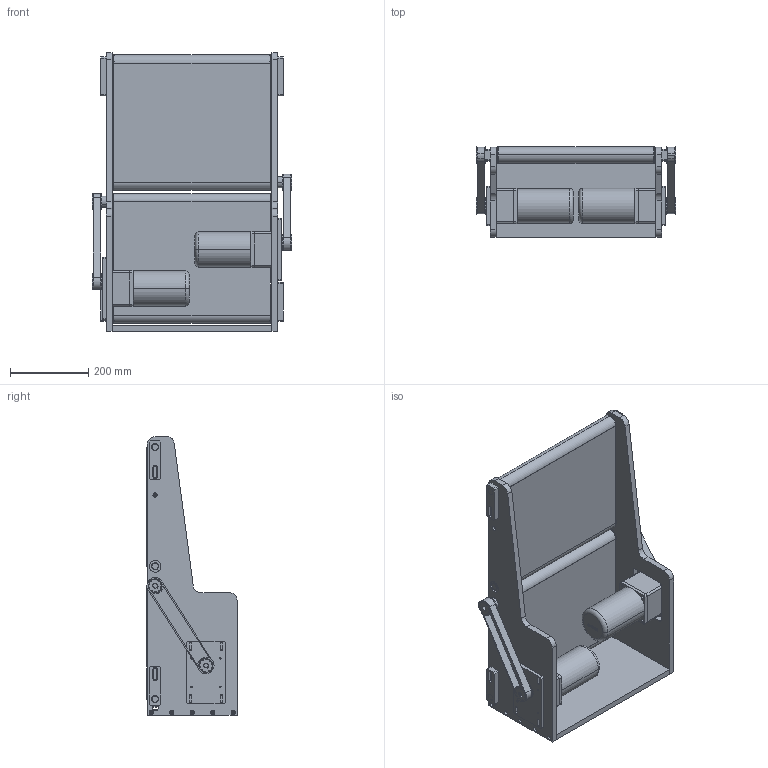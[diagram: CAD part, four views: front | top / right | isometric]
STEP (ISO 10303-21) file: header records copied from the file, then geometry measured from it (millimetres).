
FILE_DESCRIPTION(/* description */ (''),/* implementation_level */ '2;1');
FILE_NAME(/* name */ 'beltconveyor_a077_w400_l700.stp',/* time_stamp */ '2024-12-31T20:36:05+08:00',/* author */ (''),/* organization */ (''),/* preprocessor_version */ 'ST-DEVELOPER v16.7',/* originating_system */ 'SIEMENS PLM Software NX 12.0',/* authorisation */ '');
FILE_SCHEMA (('AUTOMOTIVE_DESIGN { 1 0 10303 214 3 1 1 1 }'));
Length unit declared in the file: millimetre
Products named in the file (23): PL-SG-008; PL-SG-0010; PL-SG-009; PL-SG-00107; PL-SG-00106; PL-SG-0013; PL-SG-004; PL-SG-006; PL-SG-0011; 皮带4-6^PL-SG-ZP-0019; 皮带3-5^PL-SG-ZP-0019; 皮带6-8^PL-SG-ZP-0019; PL-SG-00105; 皮带5-7^PL-SG-ZP-0019; PL-SG-007; PL-SG-0012; PL-SG-00104; PL-SG-0015; PL-SG-0014; PL-SG-ZP-006; PL-SG-ZP-0020; PL-SG-ZP-007; beltconveyor_a077_w400_l700
Assembly tree (35 placements, depth 3):
  beltconveyor_a077_w400_l700
    PL-SG-0014
    PL-SG-0015  x4
    PL-SG-ZP-007  x2
      PL-SG-006
      PL-SG-004
    PL-SG-00104
    PL-SG-ZP-0020  x2
      PL-SG-0013
      PL-SG-00106
      PL-SG-00107
    PL-SG-0012  x4
    PL-SG-ZP-006  x2
      PL-SG-009
      PL-SG-0010
      PL-SG-008
    PL-SG-007  x4
    皮带5-7^PL-SG-ZP-0019
    PL-SG-00105
    皮带6-8^PL-SG-ZP-0019
    皮带3-5^PL-SG-ZP-0019
    皮带4-6^PL-SG-ZP-0019
    PL-SG-0011
Bounding box: 512 x 231 x 715 mm (x, y, z)
Volume: 10205618.2 mm3; surface area: 2744639.4 mm2
Topology: 74 solids, 74 shells, 2108 faces, 5420 edges, 3544 vertices
Faces by surface type: plane 889, cylinder 518, extrusion 369, bspline 172, cone 156, torus 4
Entity records: 51434 total; most frequent: CARTESIAN_POINT 18391, ORIENTED_EDGE 7212, DIRECTION 5243, EDGE_CURVE 3606, VERTEX_POINT 2384, VECTOR 2049, LINE 1680, B_SPLINE_CURVE_WITH_KNOTS 1677
